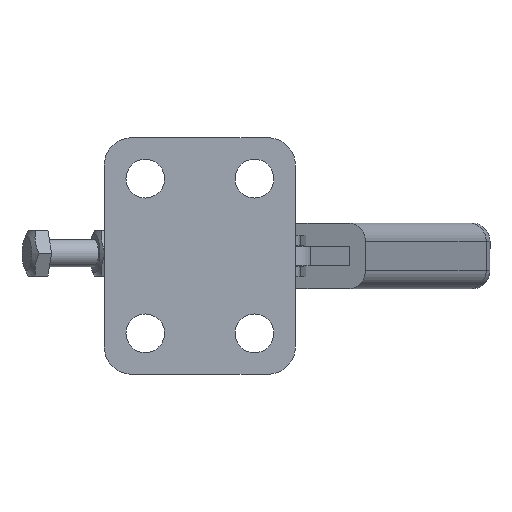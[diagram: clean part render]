
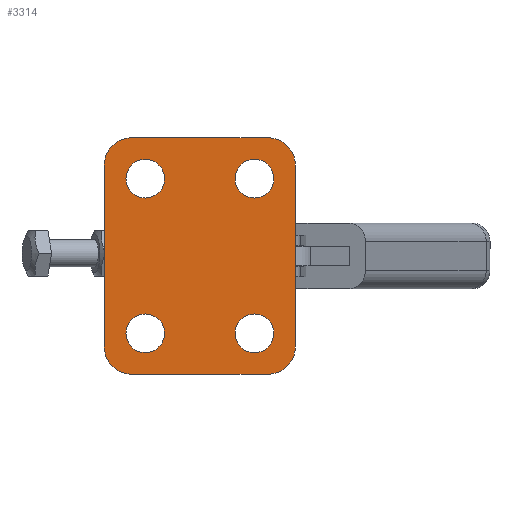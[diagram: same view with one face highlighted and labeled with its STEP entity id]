
A CAD part, front view. The second image highlights one B-rep face of the part: STEP entity #3314.
In plain terms, the highlighted planar face has unit normal (0, -1, 0) as drawn and (0, 0, -1) by its records, which use the part's own axes.
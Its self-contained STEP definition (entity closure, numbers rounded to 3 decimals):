
#157=FACE_BOUND('',#550,.T.);
#158=FACE_BOUND('',#551,.T.);
#159=FACE_BOUND('',#552,.T.);
#160=FACE_BOUND('',#553,.T.);
#213=PLANE('',#3722);
#336=FACE_OUTER_BOUND('',#549,.T.);
#549=EDGE_LOOP('',(#2389,#2390,#2391,#2392,#2393,#2394,#2395,#2396));
#550=EDGE_LOOP('',(#2397));
#551=EDGE_LOOP('',(#2398));
#552=EDGE_LOOP('',(#2399));
#553=EDGE_LOOP('',(#2400));
#799=LINE('',#5297,#1044);
#809=LINE('',#5333,#1054);
#815=LINE('',#5356,#1060);
#816=LINE('',#5358,#1061);
#1044=VECTOR('',#4185,10.);
#1054=VECTOR('',#4223,10.);
#1060=VECTOR('',#4251,10.);
#1061=VECTOR('',#4254,10.);
#1280=CIRCLE('',#3694,6.);
#1284=CIRCLE('',#3701,6.);
#1285=CIRCLE('',#3703,4.25);
#1286=CIRCLE('',#3705,4.25);
#1288=CIRCLE('',#3708,6.);
#1292=CIRCLE('',#3715,6.);
#1293=CIRCLE('',#3717,4.25);
#1294=CIRCLE('',#3719,4.25);
#1490=VERTEX_POINT('',#5287);
#1491=VERTEX_POINT('',#5289);
#1493=VERTEX_POINT('',#5295);
#1497=VERTEX_POINT('',#5308);
#1498=VERTEX_POINT('',#5312);
#1499=VERTEX_POINT('',#5316);
#1502=VERTEX_POINT('',#5323);
#1503=VERTEX_POINT('',#5325);
#1505=VERTEX_POINT('',#5331);
#1509=VERTEX_POINT('',#5344);
#1510=VERTEX_POINT('',#5348);
#1511=VERTEX_POINT('',#5352);
#1817=EDGE_CURVE('',#1490,#1491,#1280,.T.);
#1821=EDGE_CURVE('',#1493,#1490,#799,.T.);
#1828=EDGE_CURVE('',#1497,#1493,#1284,.T.);
#1830=EDGE_CURVE('',#1498,#1498,#1285,.T.);
#1832=EDGE_CURVE('',#1499,#1499,#1286,.T.);
#1835=EDGE_CURVE('',#1502,#1503,#1288,.T.);
#1839=EDGE_CURVE('',#1505,#1502,#809,.T.);
#1846=EDGE_CURVE('',#1509,#1505,#1292,.T.);
#1848=EDGE_CURVE('',#1510,#1510,#1293,.T.);
#1850=EDGE_CURVE('',#1511,#1511,#1294,.T.);
#1851=EDGE_CURVE('',#1491,#1509,#815,.T.);
#1852=EDGE_CURVE('',#1503,#1497,#816,.T.);
#2389=ORIENTED_EDGE('',*,*,#1835,.F.);
#2390=ORIENTED_EDGE('',*,*,#1839,.F.);
#2391=ORIENTED_EDGE('',*,*,#1846,.F.);
#2392=ORIENTED_EDGE('',*,*,#1851,.F.);
#2393=ORIENTED_EDGE('',*,*,#1817,.F.);
#2394=ORIENTED_EDGE('',*,*,#1821,.F.);
#2395=ORIENTED_EDGE('',*,*,#1828,.F.);
#2396=ORIENTED_EDGE('',*,*,#1852,.F.);
#2397=ORIENTED_EDGE('',*,*,#1832,.T.);
#2398=ORIENTED_EDGE('',*,*,#1830,.T.);
#2399=ORIENTED_EDGE('',*,*,#1848,.T.);
#2400=ORIENTED_EDGE('',*,*,#1850,.T.);
#3314=ADVANCED_FACE('',(#336,#157,#158,#159,#160),#213,.F.);
#3694=AXIS2_PLACEMENT_3D('',#5290,#4178,#4179);
#3701=AXIS2_PLACEMENT_3D('',#5310,#4199,#4200);
#3703=AXIS2_PLACEMENT_3D('',#5314,#4204,#4205);
#3705=AXIS2_PLACEMENT_3D('',#5318,#4209,#4210);
#3708=AXIS2_PLACEMENT_3D('',#5326,#4216,#4217);
#3715=AXIS2_PLACEMENT_3D('',#5346,#4237,#4238);
#3717=AXIS2_PLACEMENT_3D('',#5350,#4242,#4243);
#3719=AXIS2_PLACEMENT_3D('',#5354,#4247,#4248);
#3722=AXIS2_PLACEMENT_3D('',#5359,#4255,#4256);
#4178=DIRECTION('center_axis',(0.,0.,1.));
#4179=DIRECTION('ref_axis',(0.707,-0.707,0.));
#4185=DIRECTION('',(1.,0.,0.));
#4199=DIRECTION('center_axis',(0.,0.,1.));
#4200=DIRECTION('ref_axis',(-0.707,-0.707,0.));
#4204=DIRECTION('center_axis',(0.,0.,1.));
#4205=DIRECTION('ref_axis',(-1.,0.,0.));
#4209=DIRECTION('center_axis',(0.,0.,1.));
#4210=DIRECTION('ref_axis',(-1.,0.,0.));
#4216=DIRECTION('center_axis',(0.,0.,1.));
#4217=DIRECTION('ref_axis',(-0.707,0.707,0.));
#4223=DIRECTION('',(-1.,0.,0.));
#4237=DIRECTION('center_axis',(0.,0.,1.));
#4238=DIRECTION('ref_axis',(0.707,0.707,0.));
#4242=DIRECTION('center_axis',(0.,0.,1.));
#4243=DIRECTION('ref_axis',(-1.,0.,0.));
#4247=DIRECTION('center_axis',(0.,0.,1.));
#4248=DIRECTION('ref_axis',(-1.,0.,0.));
#4251=DIRECTION('',(0.,1.,0.));
#4254=DIRECTION('',(0.,-1.,0.));
#4255=DIRECTION('center_axis',(0.,0.,1.));
#4256=DIRECTION('ref_axis',(1.,0.,0.));
#5287=CARTESIAN_POINT('',(36.,0.,0.));
#5289=CARTESIAN_POINT('',(42.,6.,0.));
#5290=CARTESIAN_POINT('Origin',(36.,6.,0.));
#5295=CARTESIAN_POINT('',(6.,0.,0.));
#5297=CARTESIAN_POINT('',(0.,0.,0.));
#5308=CARTESIAN_POINT('',(0.,6.,0.));
#5310=CARTESIAN_POINT('Origin',(6.,6.,0.));
#5312=CARTESIAN_POINT('',(13.25,9.,0.));
#5314=CARTESIAN_POINT('Origin',(9.,9.,0.));
#5316=CARTESIAN_POINT('',(37.25,9.,0.));
#5318=CARTESIAN_POINT('Origin',(33.,9.,0.));
#5323=CARTESIAN_POINT('',(6.,52.,0.));
#5325=CARTESIAN_POINT('',(0.,46.,0.));
#5326=CARTESIAN_POINT('Origin',(6.,46.,0.));
#5331=CARTESIAN_POINT('',(36.,52.,0.));
#5333=CARTESIAN_POINT('',(42.,52.,0.));
#5344=CARTESIAN_POINT('',(42.,46.,0.));
#5346=CARTESIAN_POINT('Origin',(36.,46.,0.));
#5348=CARTESIAN_POINT('',(13.25,43.,0.));
#5350=CARTESIAN_POINT('Origin',(9.,43.,0.));
#5352=CARTESIAN_POINT('',(37.25,43.,0.));
#5354=CARTESIAN_POINT('Origin',(33.,43.,0.));
#5356=CARTESIAN_POINT('',(42.,0.,0.));
#5358=CARTESIAN_POINT('',(0.,52.,0.));
#5359=CARTESIAN_POINT('Origin',(21.,40.15,0.));
